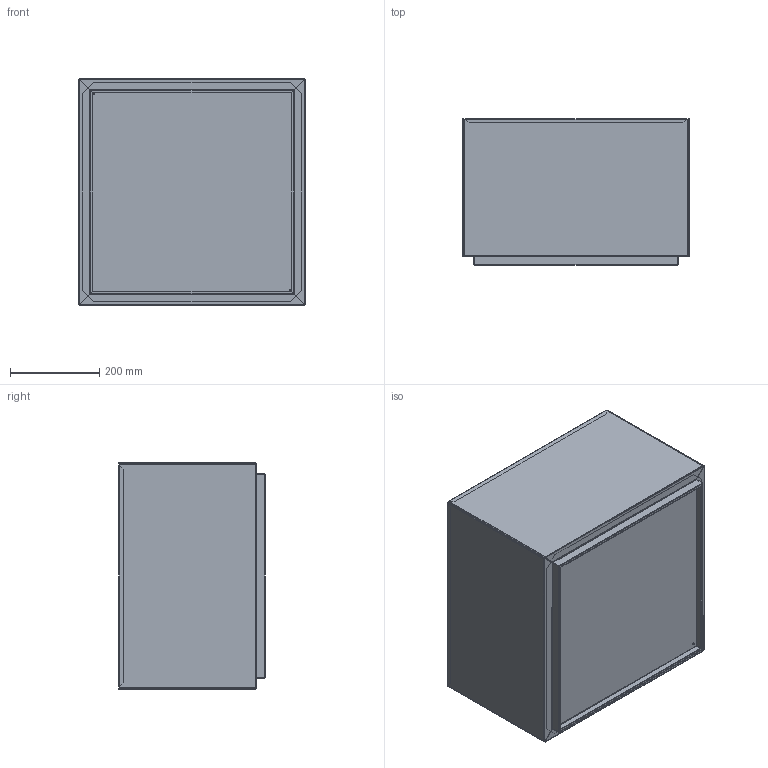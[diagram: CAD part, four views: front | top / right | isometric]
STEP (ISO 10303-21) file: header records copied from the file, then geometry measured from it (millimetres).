
FILE_DESCRIPTION((''),'2;1');
FILE_NAME('22060_ASM','2023-07-10T15:14:02',('joshb'),(''),'CREO PARAMETRIC BY PTC INC, 2019344','CREO PARAMETRIC BY PTC INC, 2019344','');
FILE_SCHEMA(('CONFIG_CONTROL_DESIGN'));
Length unit declared in the file: inch
Products named in the file (3): 22057-020-XXX; 22061-020-XXX; 22060_ASM
Assembly tree (5 placements, depth 2):
  22060_ASM
    22057-020-XXX  x4
    22061-020-XXX
Bounding box: 508 x 327.96 x 508 mm (x, y, z)
Volume: 933235.2 mm3; surface area: 2056781.7 mm2
Topology: 5 solids, 5 shells, 722 faces, 1832 edges, 1096 vertices
Faces by surface type: plane 426, bspline 156, cylinder 140
Entity records: 7546 total; most frequent: CARTESIAN_POINT 3074, ORIENTED_EDGE 970, DIRECTION 771, EDGE_CURVE 485, VECTOR 347, LINE 347, VERTEX_POINT 292, EDGE_LOOP 215
